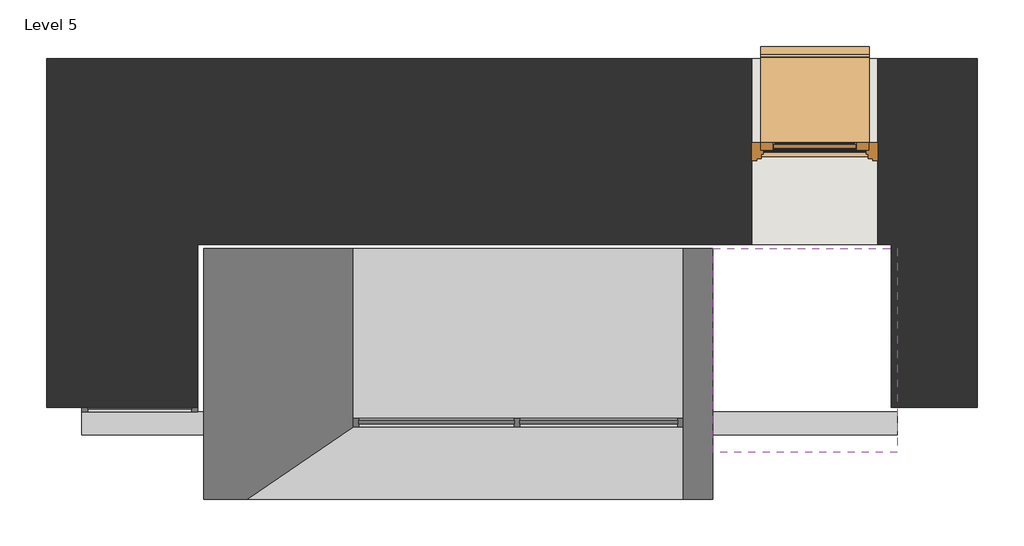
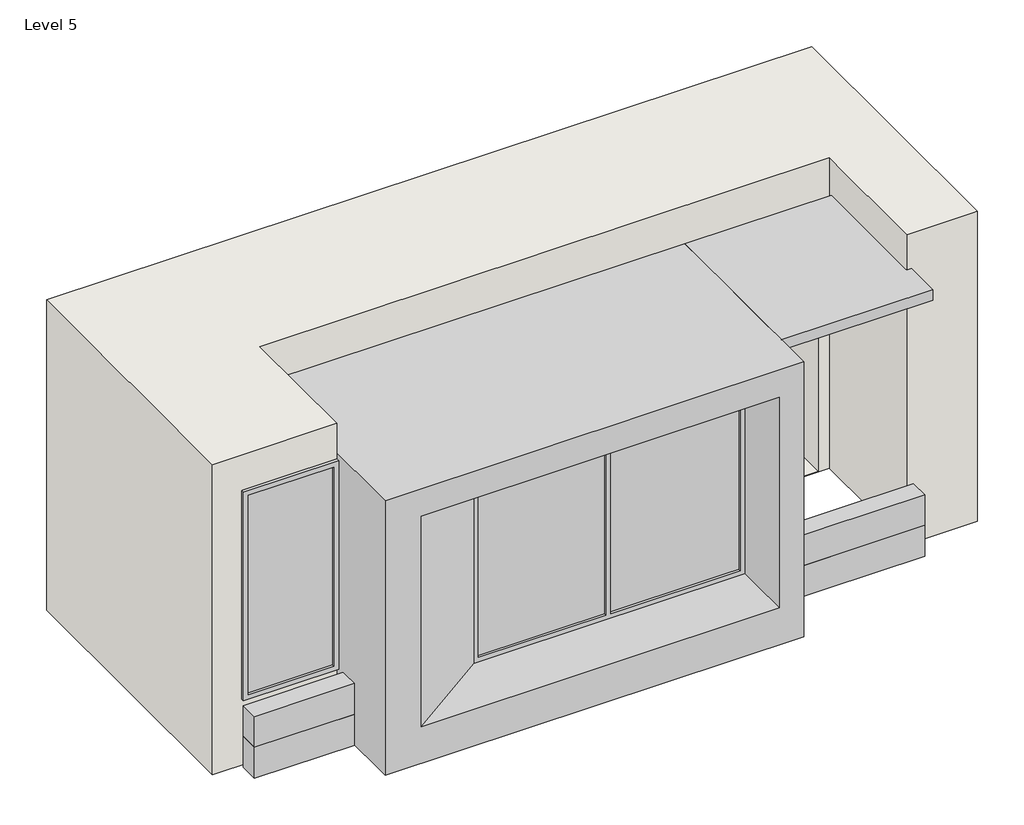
# One storey: 5 proxies, 1 door, 1 wall.
"""IFC4 building model written with IfcOpenShell, lengths in millimetres."""

from ifc_helpers import new_model, si_unit, origin, place, context, project, spatial, transform, mapped, element, save
from components import generic_models_14_generic_models_5_a8c29970, generic_models_15_generic_models_2_c558fc42, generic_models_20_generic_models_3_f67f5997, generic_models_21_generic_models_3_42e0593c, generic_models_16_generic_models_16_f0286e52, door_1_lite_exterior_door_11236_3070_4d0df540, walls_5_walls_5_82c941d5

model = new_model("IFC4")

# Units and contexts
model_context = context("Model", 3, world=origin())
ifc_project = project(units=[si_unit("LENGTHUNIT", "METRE", prefix="MILLI")], contexts=[model_context])

# Site, building, storey
site = spatial("IfcSite", under=ifc_project)
building = spatial("IfcBuilding", under=site)
storey = spatial("IfcBuildingStorey", under=building, Name="Level 5", Elevation=12000.0)

# Proxies
placement = place(None, origin())
generic_models_14_generic_models_5_shape = generic_models_14_generic_models_5_a8c29970(model_context)
element("IfcBuildingElementProxy", 1, Name="Generic Models 14 : Generic Models 5", ObjectType="Generic Models 14 : Generic Models 5", at=placement, inside=storey, context=model_context, shape_type="MappedRepresentation", body=[
    mapped(generic_models_14_generic_models_5_shape, transform((0.0, 0.0, 0.0), x_axis=(1.0, 0.0, 0.0), y_axis=(0.0, 1.0, 0.0), z_axis=(0.0, 0.0, 1.0))),
])
generic_models_15_generic_models_2_shape = generic_models_15_generic_models_2_c558fc42(model_context)
element("IfcBuildingElementProxy", 2, Name="Generic Models 15 : Generic Models 2", ObjectType="Generic Models 15 : Generic Models 2", at=placement, inside=storey, context=model_context, shape_type="MappedRepresentation", body=[
    mapped(generic_models_15_generic_models_2_shape, transform((0.0, 0.0, 0.0), x_axis=(1.0, 0.0, 0.0), y_axis=(0.0, 1.0, 0.0), z_axis=(0.0, 0.0, 1.0))),
])
generic_models_20_generic_models_3_shape = generic_models_20_generic_models_3_f67f5997(model_context)
element("IfcBuildingElementProxy", 3, Name="Generic Models 20 : Generic Models 3", ObjectType="Generic Models 20 : Generic Models 3", at=placement, inside=storey, context=model_context, shape_type="MappedRepresentation", body=[
    mapped(generic_models_20_generic_models_3_shape, transform((0.0, 0.0, 0.0), x_axis=(1.0, 0.0, 0.0), y_axis=(0.0, 1.0, 0.0), z_axis=(0.0, 0.0, 1.0))),
])
generic_models_21_generic_models_3_shape = generic_models_21_generic_models_3_42e0593c(model_context)
element("IfcBuildingElementProxy", 4, Name="Generic Models 21 : Generic Models 3", ObjectType="Generic Models 21 : Generic Models 3", at=placement, inside=storey, context=model_context, shape_type="MappedRepresentation", body=[
    mapped(generic_models_21_generic_models_3_shape, transform((0.0, 0.0, 0.0), x_axis=(1.0, 0.0, 0.0), y_axis=(0.0, 1.0, 0.0), z_axis=(0.0, 0.0, 1.0))),
])
generic_models_16_generic_models_16_shape = generic_models_16_generic_models_16_f0286e52(model_context)
element("IfcBuildingElementProxy", 5, Name="Generic Models 22 : Generic Models 16", ObjectType="Generic Models 22 : Generic Models 16", at=placement, inside=storey, context=model_context, shape_type="MappedRepresentation", body=[
    mapped(generic_models_16_generic_models_16_shape, transform((0.0, 0.0, 3000.0), x_axis=(1.0, 0.0, 0.0), y_axis=(0.0, 1.0, 0.0), z_axis=(0.0, 0.0, 1.0))),
])

# Door
door_1_lite_exterior_door_11236_3070_shape = door_1_lite_exterior_door_11236_3070_4d0df540(model_context)
element("IfcDoor", 6, ObjectType="1_Lite_Exterior_door_11236 : 3070", at=placement, inside=storey, context=model_context, shape_type="MappedRepresentation", body=[
    mapped(door_1_lite_exterior_door_11236_3070_shape, transform((-4899.1566727, -1640.4148732, 12006.4), x_axis=(1.0, 0.0, 0.0), y_axis=(0.0, 1.0, 0.0), z_axis=(0.0, 0.0, 1.0))),
])

# Wall
walls_5_walls_5_shape = walls_5_walls_5_82c941d5(model_context)
element("IfcWall", 7, ObjectType="Walls 5 : Walls 5", at=placement, inside=storey, context=model_context, shape_type="MappedRepresentation", body=[
    mapped(walls_5_walls_5_shape, transform((0.0, 0.0, 0.0), x_axis=(1.0, 0.0, 0.0), y_axis=(0.0, 1.0, 0.0), z_axis=(0.0, 0.0, 1.0))),
])

save(model, "model.ifc")
